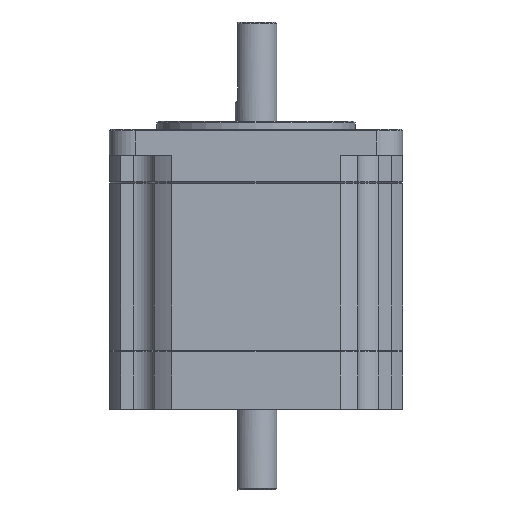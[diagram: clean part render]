
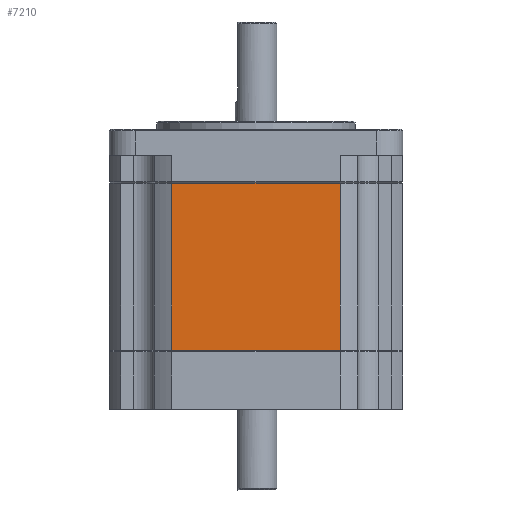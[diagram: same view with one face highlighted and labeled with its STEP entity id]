
A CAD part, front view. The second image highlights one B-rep face of the part: STEP entity #7210.
In plain terms, the highlighted planar face has unit normal (0, -1, 0).
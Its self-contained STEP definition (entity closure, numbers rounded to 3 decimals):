
#495 = CARTESIAN_POINT ( 'NONE',  ( 0., -28.2, -32.05 ) ) ;
#1132 = DIRECTION ( 'NONE',  ( 0., 0., -1. ) ) ;
#1713 = CARTESIAN_POINT ( 'NONE',  ( -16.156, -28.2, 0. ) ) ;
#2400 = EDGE_CURVE ( 'NONE', #4547, #7963, #15147, .T. ) ;
#2841 = ORIENTED_EDGE ( 'NONE', *, *, #11560, .T. ) ;
#3741 = CARTESIAN_POINT ( 'NONE',  ( -16.156, -28.2, -32.05 ) ) ;
#3988 = FACE_OUTER_BOUND ( 'NONE', #15179, .T. ) ;
#4046 = ORIENTED_EDGE ( 'NONE', *, *, #17234, .T. ) ;
#4547 = VERTEX_POINT ( 'NONE', #10432 ) ;
#4583 = DIRECTION ( 'NONE',  ( -1., 0., 0. ) ) ;
#5158 = PLANE ( 'NONE',  #6435 ) ;
#5427 = DIRECTION ( 'NONE',  ( 0., -1., 0. ) ) ;
#5921 = VERTEX_POINT ( 'NONE', #9202 ) ;
#6122 = LINE ( 'NONE', #6213, #12082 ) ;
#6213 = CARTESIAN_POINT ( 'NONE',  ( -16.156, -28.2, 0. ) ) ;
#6435 = AXIS2_PLACEMENT_3D ( 'NONE', #14654, #5427, #14925 ) ;
#7210 = ADVANCED_FACE ( 'NONE', ( #3988 ), #5158, .T. ) ;
#7963 = VERTEX_POINT ( 'NONE', #17208 ) ;
#8257 = CARTESIAN_POINT ( 'NONE',  ( 16.156, -28.2, -32.05 ) ) ;
#8885 = VECTOR ( 'NONE', #16755, 1000. ) ;
#9202 = CARTESIAN_POINT ( 'NONE',  ( -16.156, -28.2, -32.05 ) ) ;
#9801 = ORIENTED_EDGE ( 'NONE', *, *, #2400, .F. ) ;
#10432 = CARTESIAN_POINT ( 'NONE',  ( 16.156, -28.2, 0. ) ) ;
#10743 = LINE ( 'NONE', #3741, #14971 ) ;
#10857 = VERTEX_POINT ( 'NONE', #1713 ) ;
#10926 = EDGE_CURVE ( 'NONE', #4547, #10857, #6122, .T. ) ;
#11560 = EDGE_CURVE ( 'NONE', #10857, #5921, #10743, .T. ) ;
#11911 = ORIENTED_EDGE ( 'NONE', *, *, #10926, .T. ) ;
#12082 = VECTOR ( 'NONE', #4583, 1000. ) ;
#14654 = CARTESIAN_POINT ( 'NONE',  ( -16.156, -28.2, -32.05 ) ) ;
#14925 = DIRECTION ( 'NONE',  ( 0., 0., -1. ) ) ;
#14971 = VECTOR ( 'NONE', #1132, 1000. ) ;
#15147 = LINE ( 'NONE', #8257, #8885 ) ;
#15179 = EDGE_LOOP ( 'NONE', ( #4046, #9801, #11911, #2841 ) ) ;
#15391 = LINE ( 'NONE', #495, #17336 ) ;
#15478 = DIRECTION ( 'NONE',  ( 1., 0., 0. ) ) ;
#16755 = DIRECTION ( 'NONE',  ( 0., 0., -1. ) ) ;
#17208 = CARTESIAN_POINT ( 'NONE',  ( 16.156, -28.2, -32.05 ) ) ;
#17234 = EDGE_CURVE ( 'NONE', #5921, #7963, #15391, .T. ) ;
#17336 = VECTOR ( 'NONE', #15478, 1000. ) ;
